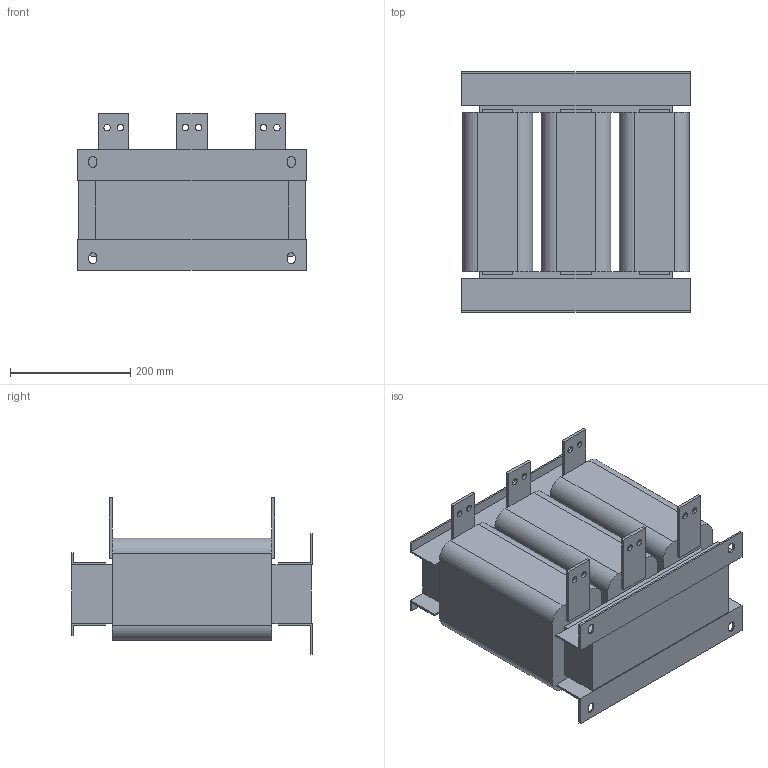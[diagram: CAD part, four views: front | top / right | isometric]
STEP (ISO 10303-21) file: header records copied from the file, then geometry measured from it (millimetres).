
FILE_DESCRIPTION(/* description */ (''),/* implementation_level */ '2;1');
FILE_NAME(/* name */ 'E:\Работа\Веда МК (Данфосс)\!Текущие задачи\2024.08.30 3D модели\Дроссели\ACO 1-проц 660 В\STP\ACO-C-0690-T6.stp',/* time_stamp */ '2024-11-01T17:46:59+04:00',/* author */ ('Александр (огранич)'),/* organization */ (''),/* preprocessor_version */ 'ST-DEVELOPER v18.1',/* originating_system */ 'Autodesk Inventor 2021',/* authorisation */ '');
FILE_SCHEMA (('AUTOMOTIVE_DESIGN { 1 0 10303 214 3 1 1 }'));
Length unit declared in the file: millimetre
Products named in the file (1): ACO-0015-T4-4
Bounding box: 380 x 400 x 260 mm (x, y, z)
Volume: 19973304.1 mm3; surface area: 918912.2 mm2
Topology: 3 solids, 3 shells, 142 faces, 394 edges, 254 vertices
Faces by surface type: plane 110, cylinder 32
Full cylindrical faces by diameter (mm): 11 x12
Entity records: 4591 total; most frequent: CARTESIAN_POINT 791, ORIENTED_EDGE 788, DIRECTION 750, EDGE_CURVE 394, LINE 324, VECTOR 324, VERTEX_POINT 254, AXIS2_PLACEMENT_3D 213
